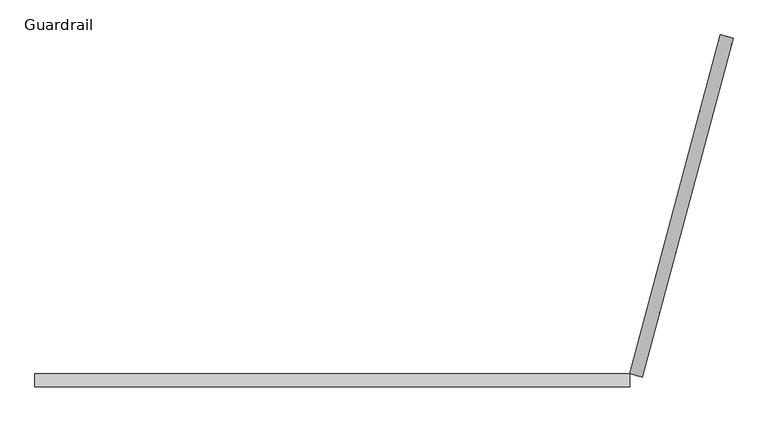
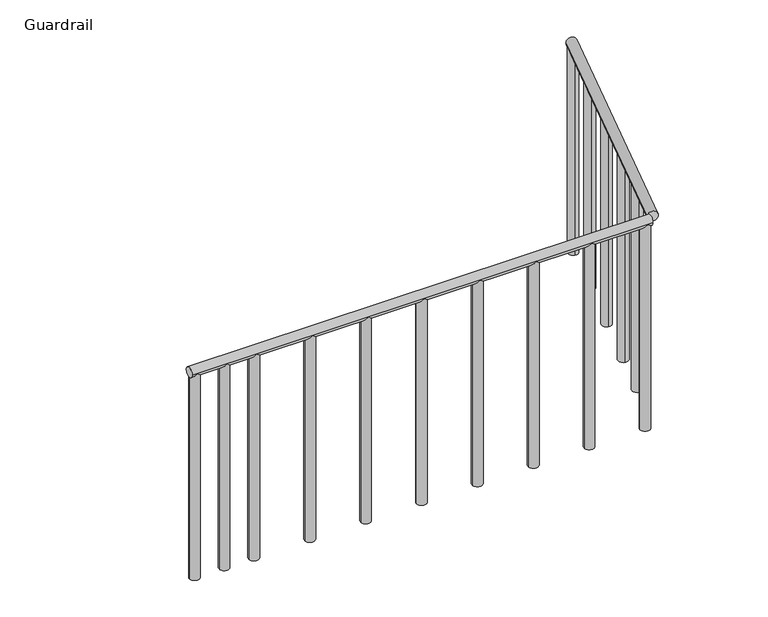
"""IFC4 building model written with IfcOpenShell, lengths in millimetres: railing geometry, Guardrail."""

from ifc_helpers import new_model, si_unit, frame, origin, place, context, project, spatial, circle_curve, ellipse_curve, source, transform, mapped, element, save
from ifc_brep_helpers import plane_surface, cylinder_surface, advanced_brep


def guardrail_bcd2a140(model_context):
    return source(origin(), model_context, "Body", "AdvancedBrep", [
        advanced_brep(
        [(2243.9412132, -4755.1653971, 4749.8), (2243.9412132, -4704.3653971, 4749.8), (-59.7876791, -4755.1653971, 4749.8), (-59.7876791, -4704.3653971, 4749.8)],
        [
            (0, 1, circle_curve(frame((2243.9412132, -4729.7653971, 4749.8), z_axis=(1.0, 0.0, 0.0), x_axis=(0.0, -1.0, 0.0)), 25.4)),
            (1, 0, circle_curve(frame((2243.9412132, -4729.7653971, 4749.8), z_axis=(1.0, 0.0, 0.0), x_axis=(0.0, -1.0, 0.0)), 25.4)),
            (2, 3, circle_curve(frame((-59.7876791, -4729.7653971, 4749.8), z_axis=(-1.0, 0.0, 0.0), x_axis=(0.0, -1.0, 0.0)), 25.4)),
            (3, 2, circle_curve(frame((-59.7876791, -4729.7653971, 4749.8), z_axis=(-1.0, 0.0, 0.0), x_axis=(0.0, -1.0, 0.0)), 25.4)),
            (0, 2),
            (3, 1),
        ],
        [
            plane_surface(frame((2243.9412132, -4755.1653971, 4724.4), z_axis=(1.0, 0.0, 0.0), x_axis=(0.0, 1.0, 0.0))),
            plane_surface(frame((-59.7876791, -4755.1653971, 4724.4), z_axis=(-1.0, 0.0, 0.0), x_axis=(0.0, -1.0, 0.0))),
            cylinder_surface(frame((-59.7876791, -4729.7653971, 4749.8), z_axis=(1.0, 0.0, 0.0), x_axis=(0.0, -1.0, 0.0)), 25.4),
        ],
        [
            (0, [[1, 2]]),
            (1, [[3, 4]]),
            (2, [[-1, 5, -4, 6]]),
            (2, [[-2, -6, -3, -5]]),
        ],
    ),
        advanced_brep(
        [(-8.9876791, -4729.7653971, 3657.6), (-59.7876791, -4729.7653971, 3657.6), (-59.7876791, -4729.7653971, 4727.8029547), (-56.3847243, -4717.0653971, 4727.8029547), (-12.3906338, -4717.0653971, 4727.8029547), (-8.9876791, -4729.7653971, 4727.8029547), (-12.3906338, -4742.4653971, 4727.8029547), (-56.3847243, -4742.4653971, 4727.8029547)],
        [
            (0, 1, circle_curve(frame((-34.3876791, -4729.7653971, 3657.6), z_axis=(0.0, 0.0, -1.0), x_axis=(1.0, 0.0, 0.0)), 25.4)),
            (1, 0, circle_curve(frame((-34.3876791, -4729.7653971, 3657.6), z_axis=(0.0, 0.0, -1.0), x_axis=(1.0, 0.0, 0.0)), 25.4)),
            (2, 3, circle_curve(frame((-34.3876791, -4729.7653971, 4727.8029547), z_axis=(0.0, 0.0, -1.0), x_axis=(1.0, 0.0, 0.0)), 25.4)),
            (3, 4, ellipse_curve(frame((-34.3876791, -4729.7653971, 4705.8059095), z_axis=(0.0, 0.8660254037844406, -0.4999999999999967), x_axis=(0.0, 0.4999999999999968, 0.8660254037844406)), 50.8, 25.4)),
            (4, 5, circle_curve(frame((-34.3876791, -4729.7653971, 4727.8029547), z_axis=(0.0, 0.0, -1.0), x_axis=(1.0, 0.0, 0.0)), 25.4)),
            (5, 0),
            (1, 2),
            (5, 6, circle_curve(frame((-34.3876791, -4729.7653971, 4727.8029547), z_axis=(0.0, 0.0, -1.0), x_axis=(1.0, 0.0, 0.0)), 25.4)),
            (6, 7, ellipse_curve(frame((-34.3876791, -4729.7653971, 4705.8059095), z_axis=(0.0, -0.8660254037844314, -0.5000000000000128), x_axis=(0.0, -0.5000000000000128, 0.8660254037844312)), 50.8, 25.4)),
            (7, 2, circle_curve(frame((-34.3876791, -4729.7653971, 4727.8029547), z_axis=(0.0, 0.0, -1.0), x_axis=(1.0, 0.0, 0.0)), 25.4)),
            (4, 3),
            (7, 6),
        ],
        [
            plane_surface(frame((-8.9876791, -4729.7653971, 3657.6), z_axis=(0.0, 0.0, -1.0), x_axis=(0.0, -1.0, 0.0))),
            cylinder_surface(frame((-34.3876791, -4729.7653971, 3657.6), z_axis=(0.0, 0.0, 1.0), x_axis=(1.0, 0.0, 0.0)), 25.4),
            plane_surface(frame((-3107.7876791, -4729.7653971, 4727.8029547), z_axis=(0.0, 0.0, 1.0), x_axis=(0.0, -1.0, 0.0))),
            plane_surface(frame((-3107.7876791, -4710.7153971, 4738.8014774), z_axis=(0.0, -0.8660254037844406, 0.4999999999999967), x_axis=(0.0, -0.4999999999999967, -0.8660254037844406))),
            plane_surface(frame((-3107.7876791, -4748.8153971, 4738.8014774), z_axis=(0.0, 0.8660254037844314, 0.5000000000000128), x_axis=(0.0, -0.5000000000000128, 0.8660254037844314))),
        ],
        [
            (0, [[1, 2]]),
            (1, [[3, 4, 5, 6, -2, 7]]),
            (1, [[8, 9, 10, -7, -1, -6]]),
            (2, [[-5, 11, -3, -10, 12, -8]]),
            (3, [[-4, -11]]),
            (4, [[-9, -12]]),
        ],
    ),
        advanced_brep(
        [(139.5767671, -4729.7653971, 3657.6), (88.7767671, -4729.7653971, 3657.6), (88.7767671, -4729.7653971, 4727.8029547), (92.1797218, -4717.0653971, 4727.8029547), (136.1738123, -4717.0653971, 4727.8029547), (139.5767671, -4729.7653971, 4727.8029547), (136.1738123, -4742.4653971, 4727.8029547), (92.1797218, -4742.4653971, 4727.8029547)],
        [
            (0, 1, circle_curve(frame((114.1767671, -4729.7653971, 3657.6), z_axis=(0.0, 0.0, -1.0), x_axis=(1.0, 0.0, 0.0)), 25.4)),
            (1, 0, circle_curve(frame((114.1767671, -4729.7653971, 3657.6), z_axis=(0.0, 0.0, -1.0), x_axis=(1.0, 0.0, 0.0)), 25.4)),
            (2, 3, circle_curve(frame((114.1767671, -4729.7653971, 4727.8029547), z_axis=(0.0, 0.0, -1.0), x_axis=(1.0, 0.0, 0.0)), 25.4)),
            (3, 4, ellipse_curve(frame((114.1767671, -4729.7653971, 4705.8059095), z_axis=(0.0, 0.8660254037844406, -0.4999999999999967), x_axis=(0.0, 0.4999999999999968, 0.8660254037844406)), 50.8, 25.4)),
            (4, 5, circle_curve(frame((114.1767671, -4729.7653971, 4727.8029547), z_axis=(0.0, 0.0, -1.0), x_axis=(1.0, 0.0, 0.0)), 25.4)),
            (5, 0),
            (1, 2),
            (5, 6, circle_curve(frame((114.1767671, -4729.7653971, 4727.8029547), z_axis=(0.0, 0.0, -1.0), x_axis=(1.0, 0.0, 0.0)), 25.4)),
            (6, 7, ellipse_curve(frame((114.1767671, -4729.7653971, 4705.8059095), z_axis=(0.0, -0.8660254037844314, -0.5000000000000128), x_axis=(0.0, -0.5000000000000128, 0.8660254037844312)), 50.8, 25.4)),
            (7, 2, circle_curve(frame((114.1767671, -4729.7653971, 4727.8029547), z_axis=(0.0, 0.0, -1.0), x_axis=(1.0, 0.0, 0.0)), 25.4)),
            (6, 7),
            (3, 4),
        ],
        [
            plane_surface(frame((139.5767671, -4729.7653971, 3657.6), z_axis=(0.0, 0.0, -1.0), x_axis=(0.0, -1.0, 0.0))),
            cylinder_surface(frame((114.1767671, -4729.7653971, 3657.6), z_axis=(0.0, 0.0, 1.0), x_axis=(1.0, 0.0, 0.0)), 25.4),
            plane_surface(frame((-3107.7876791, -4748.8153971, 4738.8014774), z_axis=(0.0, 0.8660254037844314, 0.5000000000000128), x_axis=(0.0, -0.5000000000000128, 0.8660254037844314))),
            plane_surface(frame((-3107.7876791, -4710.7153971, 4738.8014774), z_axis=(0.0, -0.8660254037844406, 0.4999999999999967), x_axis=(0.0, -0.4999999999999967, -0.8660254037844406))),
            plane_surface(frame((-3107.7876791, -4729.7653971, 4727.8029547), z_axis=(0.0, 0.0, 1.0), x_axis=(0.0, -1.0, 0.0))),
        ],
        [
            (0, [[1, 2]]),
            (1, [[3, 4, 5, 6, -2, 7]]),
            (1, [[8, 9, 10, -7, -1, -6]]),
            (2, [[-9, 11]]),
            (3, [[-4, 12]]),
            (4, [[-5, -12, -3, -10, -11, -8]]),
        ],
    ),
        advanced_brep(
        [(288.1412132, -4729.7653971, 3657.6), (237.3412132, -4729.7653971, 3657.6), (237.3412132, -4729.7653971, 4727.8029547), (240.744168, -4717.0653971, 4727.8029547), (284.7382585, -4717.0653971, 4727.8029547), (288.1412132, -4729.7653971, 4727.8029547), (284.7382585, -4742.4653971, 4727.8029547), (240.744168, -4742.4653971, 4727.8029547)],
        [
            (0, 1, circle_curve(frame((262.7412132, -4729.7653971, 3657.6), z_axis=(0.0, 0.0, -1.0), x_axis=(1.0, 0.0, 0.0)), 25.4)),
            (1, 0, circle_curve(frame((262.7412132, -4729.7653971, 3657.6), z_axis=(0.0, 0.0, -1.0), x_axis=(1.0, 0.0, 0.0)), 25.4)),
            (2, 3, circle_curve(frame((262.7412132, -4729.7653971, 4727.8029547), z_axis=(0.0, 0.0, -1.0), x_axis=(1.0, 0.0, 0.0)), 25.4)),
            (3, 4, ellipse_curve(frame((262.7412132, -4729.7653971, 4705.8059095), z_axis=(0.0, 0.8660254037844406, -0.4999999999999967), x_axis=(0.0, 0.4999999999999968, 0.8660254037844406)), 50.8, 25.4)),
            (4, 5, circle_curve(frame((262.7412132, -4729.7653971, 4727.8029547), z_axis=(0.0, 0.0, -1.0), x_axis=(1.0, 0.0, 0.0)), 25.4)),
            (5, 0),
            (1, 2),
            (5, 6, circle_curve(frame((262.7412132, -4729.7653971, 4727.8029547), z_axis=(0.0, 0.0, -1.0), x_axis=(1.0, 0.0, 0.0)), 25.4)),
            (6, 7, ellipse_curve(frame((262.7412132, -4729.7653971, 4705.8059095), z_axis=(0.0, -0.8660254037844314, -0.5000000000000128), x_axis=(0.0, -0.5000000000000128, 0.8660254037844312)), 50.8, 25.4)),
            (7, 2, circle_curve(frame((262.7412132, -4729.7653971, 4727.8029547), z_axis=(0.0, 0.0, -1.0), x_axis=(1.0, 0.0, 0.0)), 25.4)),
            (6, 7),
            (3, 4),
        ],
        [
            plane_surface(frame((288.1412132, -4729.7653971, 3657.6), z_axis=(0.0, 0.0, -1.0), x_axis=(0.0, -1.0, 0.0))),
            cylinder_surface(frame((262.7412132, -4729.7653971, 3657.6), z_axis=(0.0, 0.0, 1.0), x_axis=(1.0, 0.0, 0.0)), 25.4),
            plane_surface(frame((-3107.7876791, -4748.8153971, 4738.8014774), z_axis=(0.0, 0.8660254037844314, 0.5000000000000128), x_axis=(0.0, -0.5000000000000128, 0.8660254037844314))),
            plane_surface(frame((-3107.7876791, -4710.7153971, 4738.8014774), z_axis=(0.0, -0.8660254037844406, 0.4999999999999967), x_axis=(0.0, -0.4999999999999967, -0.8660254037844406))),
            plane_surface(frame((-3107.7876791, -4729.7653971, 4727.8029547), z_axis=(0.0, 0.0, 1.0), x_axis=(0.0, -1.0, 0.0))),
        ],
        [
            (0, [[1, 2]]),
            (1, [[3, 4, 5, 6, -2, 7]]),
            (1, [[8, 9, 10, -7, -1, -6]]),
            (2, [[-9, 11]]),
            (3, [[-4, 12]]),
            (4, [[-5, -12, -3, -10, -11, -8]]),
        ],
    ),
        advanced_brep(
        [(567.5412132, -4729.7653971, 3657.6), (516.7412132, -4729.7653971, 3657.6), (516.7412132, -4729.7653971, 4727.8029547), (520.144168, -4717.0653971, 4727.8029547), (564.1382585, -4717.0653971, 4727.8029547), (567.5412132, -4729.7653971, 4727.8029547), (564.1382585, -4742.4653971, 4727.8029547), (520.144168, -4742.4653971, 4727.8029547)],
        [
            (0, 1, circle_curve(frame((542.1412132, -4729.7653971, 3657.6), z_axis=(0.0, 0.0, -1.0), x_axis=(1.0, 0.0, 0.0)), 25.4)),
            (1, 0, circle_curve(frame((542.1412132, -4729.7653971, 3657.6), z_axis=(0.0, 0.0, -1.0), x_axis=(1.0, 0.0, 0.0)), 25.4)),
            (2, 3, circle_curve(frame((542.1412132, -4729.7653971, 4727.8029547), z_axis=(0.0, 0.0, -1.0), x_axis=(1.0, 0.0, 0.0)), 25.4)),
            (3, 4, ellipse_curve(frame((542.1412132, -4729.7653971, 4705.8059095), z_axis=(0.0, 0.8660254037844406, -0.4999999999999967), x_axis=(0.0, 0.4999999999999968, 0.8660254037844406)), 50.8, 25.4)),
            (4, 5, circle_curve(frame((542.1412132, -4729.7653971, 4727.8029547), z_axis=(0.0, 0.0, -1.0), x_axis=(1.0, 0.0, 0.0)), 25.4)),
            (5, 0),
            (1, 2),
            (5, 6, circle_curve(frame((542.1412132, -4729.7653971, 4727.8029547), z_axis=(0.0, 0.0, -1.0), x_axis=(1.0, 0.0, 0.0)), 25.4)),
            (6, 7, ellipse_curve(frame((542.1412132, -4729.7653971, 4705.8059095), z_axis=(0.0, -0.8660254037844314, -0.5000000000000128), x_axis=(0.0, -0.5000000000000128, 0.8660254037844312)), 50.8, 25.4)),
            (7, 2, circle_curve(frame((542.1412132, -4729.7653971, 4727.8029547), z_axis=(0.0, 0.0, -1.0), x_axis=(1.0, 0.0, 0.0)), 25.4)),
            (6, 7),
            (3, 4),
        ],
        [
            plane_surface(frame((567.5412132, -4729.7653971, 3657.6), z_axis=(0.0, 0.0, -1.0), x_axis=(0.0, -1.0, 0.0))),
            cylinder_surface(frame((542.1412132, -4729.7653971, 3657.6), z_axis=(0.0, 0.0, 1.0), x_axis=(1.0, 0.0, 0.0)), 25.4),
            plane_surface(frame((-3107.7876791, -4748.8153971, 4738.8014774), z_axis=(0.0, 0.8660254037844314, 0.5000000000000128), x_axis=(0.0, -0.5000000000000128, 0.8660254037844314))),
            plane_surface(frame((-3107.7876791, -4710.7153971, 4738.8014774), z_axis=(0.0, -0.8660254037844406, 0.4999999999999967), x_axis=(0.0, -0.4999999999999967, -0.8660254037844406))),
            plane_surface(frame((-3107.7876791, -4729.7653971, 4727.8029547), z_axis=(0.0, 0.0, 1.0), x_axis=(0.0, -1.0, 0.0))),
        ],
        [
            (0, [[1, 2]]),
            (1, [[3, 4, 5, 6, -2, 7]]),
            (1, [[8, 9, 10, -7, -1, -6]]),
            (2, [[-9, 11]]),
            (3, [[-4, 12]]),
            (4, [[-5, -12, -3, -10, -11, -8]]),
        ],
    ),
        advanced_brep(
        [(846.9412132, -4729.7653971, 3657.6), (796.1412132, -4729.7653971, 3657.6), (796.1412132, -4729.7653971, 4727.8029547), (799.544168, -4717.0653971, 4727.8029547), (843.5382585, -4717.0653971, 4727.8029547), (846.9412132, -4729.7653971, 4727.8029547), (843.5382585, -4742.4653971, 4727.8029547), (799.544168, -4742.4653971, 4727.8029547)],
        [
            (0, 1, circle_curve(frame((821.5412132, -4729.7653971, 3657.6), z_axis=(0.0, 0.0, -1.0), x_axis=(1.0, 0.0, 0.0)), 25.4)),
            (1, 0, circle_curve(frame((821.5412132, -4729.7653971, 3657.6), z_axis=(0.0, 0.0, -1.0), x_axis=(1.0, 0.0, 0.0)), 25.4)),
            (2, 3, circle_curve(frame((821.5412132, -4729.7653971, 4727.8029547), z_axis=(0.0, 0.0, -1.0), x_axis=(1.0, 0.0, 0.0)), 25.4)),
            (3, 4, ellipse_curve(frame((821.5412132, -4729.7653971, 4705.8059095), z_axis=(0.0, 0.8660254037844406, -0.4999999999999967), x_axis=(0.0, 0.4999999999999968, 0.8660254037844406)), 50.8, 25.4)),
            (4, 5, circle_curve(frame((821.5412132, -4729.7653971, 4727.8029547), z_axis=(0.0, 0.0, -1.0), x_axis=(1.0, 0.0, 0.0)), 25.4)),
            (5, 0),
            (1, 2),
            (5, 6, circle_curve(frame((821.5412132, -4729.7653971, 4727.8029547), z_axis=(0.0, 0.0, -1.0), x_axis=(1.0, 0.0, 0.0)), 25.4)),
            (6, 7, ellipse_curve(frame((821.5412132, -4729.7653971, 4705.8059095), z_axis=(0.0, -0.8660254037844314, -0.5000000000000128), x_axis=(0.0, -0.5000000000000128, 0.8660254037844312)), 50.8, 25.4)),
            (7, 2, circle_curve(frame((821.5412132, -4729.7653971, 4727.8029547), z_axis=(0.0, 0.0, -1.0), x_axis=(1.0, 0.0, 0.0)), 25.4)),
            (6, 7),
            (3, 4),
        ],
        [
            plane_surface(frame((846.9412132, -4729.7653971, 3657.6), z_axis=(0.0, 0.0, -1.0), x_axis=(0.0, -1.0, 0.0))),
            cylinder_surface(frame((821.5412132, -4729.7653971, 3657.6), z_axis=(0.0, 0.0, 1.0), x_axis=(1.0, 0.0, 0.0)), 25.4),
            plane_surface(frame((-3107.7876791, -4748.8153971, 4738.8014774), z_axis=(0.0, 0.8660254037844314, 0.5000000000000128), x_axis=(0.0, -0.5000000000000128, 0.8660254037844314))),
            plane_surface(frame((-3107.7876791, -4710.7153971, 4738.8014774), z_axis=(0.0, -0.8660254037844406, 0.4999999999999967), x_axis=(0.0, -0.4999999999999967, -0.8660254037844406))),
            plane_surface(frame((-3107.7876791, -4729.7653971, 4727.8029547), z_axis=(0.0, 0.0, 1.0), x_axis=(0.0, -1.0, 0.0))),
        ],
        [
            (0, [[1, 2]]),
            (1, [[3, 4, 5, 6, -2, 7]]),
            (1, [[8, 9, 10, -7, -1, -6]]),
            (2, [[-9, 11]]),
            (3, [[-4, 12]]),
            (4, [[-5, -12, -3, -10, -11, -8]]),
        ],
    ),
        advanced_brep(
        [(1126.3412132, -4729.7653971, 3657.6), (1075.5412132, -4729.7653971, 3657.6), (1075.5412132, -4729.7653971, 4727.8029547), (1078.944168, -4717.0653971, 4727.8029547), (1122.9382585, -4717.0653971, 4727.8029547), (1126.3412132, -4729.7653971, 4727.8029547), (1122.9382585, -4742.4653971, 4727.8029547), (1078.944168, -4742.4653971, 4727.8029547)],
        [
            (0, 1, circle_curve(frame((1100.9412132, -4729.7653971, 3657.6), z_axis=(0.0, 0.0, -1.0), x_axis=(1.0, 0.0, 0.0)), 25.4)),
            (1, 0, circle_curve(frame((1100.9412132, -4729.7653971, 3657.6), z_axis=(0.0, 0.0, -1.0), x_axis=(1.0, 0.0, 0.0)), 25.4)),
            (2, 3, circle_curve(frame((1100.9412132, -4729.7653971, 4727.8029547), z_axis=(0.0, 0.0, -1.0), x_axis=(1.0, 0.0, 0.0)), 25.4)),
            (3, 4, ellipse_curve(frame((1100.9412132, -4729.7653971, 4705.8059095), z_axis=(0.0, 0.8660254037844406, -0.4999999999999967), x_axis=(0.0, 0.4999999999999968, 0.8660254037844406)), 50.8, 25.4)),
            (4, 5, circle_curve(frame((1100.9412132, -4729.7653971, 4727.8029547), z_axis=(0.0, 0.0, -1.0), x_axis=(1.0, 0.0, 0.0)), 25.4)),
            (5, 0),
            (1, 2),
            (5, 6, circle_curve(frame((1100.9412132, -4729.7653971, 4727.8029547), z_axis=(0.0, 0.0, -1.0), x_axis=(1.0, 0.0, 0.0)), 25.4)),
            (6, 7, ellipse_curve(frame((1100.9412132, -4729.7653971, 4705.8059095), z_axis=(0.0, -0.8660254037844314, -0.5000000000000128), x_axis=(0.0, -0.5000000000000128, 0.8660254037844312)), 50.8, 25.4)),
            (7, 2, circle_curve(frame((1100.9412132, -4729.7653971, 4727.8029547), z_axis=(0.0, 0.0, -1.0), x_axis=(1.0, 0.0, 0.0)), 25.4)),
            (6, 7),
            (3, 4),
        ],
        [
            plane_surface(frame((1126.3412132, -4729.7653971, 3657.6), z_axis=(0.0, 0.0, -1.0), x_axis=(0.0, -1.0, 0.0))),
            cylinder_surface(frame((1100.9412132, -4729.7653971, 3657.6), z_axis=(0.0, 0.0, 1.0), x_axis=(1.0, 0.0, 0.0)), 25.4),
            plane_surface(frame((-3107.7876791, -4748.8153971, 4738.8014774), z_axis=(0.0, 0.8660254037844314, 0.5000000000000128), x_axis=(0.0, -0.5000000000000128, 0.8660254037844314))),
            plane_surface(frame((-3107.7876791, -4710.7153971, 4738.8014774), z_axis=(0.0, -0.8660254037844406, 0.4999999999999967), x_axis=(0.0, -0.4999999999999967, -0.8660254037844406))),
            plane_surface(frame((-3107.7876791, -4729.7653971, 4727.8029547), z_axis=(0.0, 0.0, 1.0), x_axis=(0.0, -1.0, 0.0))),
        ],
        [
            (0, [[1, 2]]),
            (1, [[3, 4, 5, 6, -2, 7]]),
            (1, [[8, 9, 10, -7, -1, -6]]),
            (2, [[-9, 11]]),
            (3, [[-4, 12]]),
            (4, [[-5, -12, -3, -10, -11, -8]]),
        ],
    ),
        advanced_brep(
        [(1405.7412132, -4729.7653971, 3657.6), (1354.9412132, -4729.7653971, 3657.6), (1354.9412132, -4729.7653971, 4727.8029547), (1358.344168, -4717.0653971, 4727.8029547), (1402.3382585, -4717.0653971, 4727.8029547), (1405.7412132, -4729.7653971, 4727.8029547), (1402.3382585, -4742.4653971, 4727.8029547), (1358.344168, -4742.4653971, 4727.8029547)],
        [
            (0, 1, circle_curve(frame((1380.3412132, -4729.7653971, 3657.6), z_axis=(0.0, 0.0, -1.0), x_axis=(1.0, 0.0, 0.0)), 25.4)),
            (1, 0, circle_curve(frame((1380.3412132, -4729.7653971, 3657.6), z_axis=(0.0, 0.0, -1.0), x_axis=(1.0, 0.0, 0.0)), 25.4)),
            (2, 3, circle_curve(frame((1380.3412132, -4729.7653971, 4727.8029547), z_axis=(0.0, 0.0, -1.0), x_axis=(1.0, 0.0, 0.0)), 25.4)),
            (3, 4, ellipse_curve(frame((1380.3412132, -4729.7653971, 4705.8059095), z_axis=(0.0, 0.8660254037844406, -0.4999999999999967), x_axis=(0.0, 0.4999999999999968, 0.8660254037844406)), 50.8, 25.4)),
            (4, 5, circle_curve(frame((1380.3412132, -4729.7653971, 4727.8029547), z_axis=(0.0, 0.0, -1.0), x_axis=(1.0, 0.0, 0.0)), 25.4)),
            (5, 0),
            (1, 2),
            (5, 6, circle_curve(frame((1380.3412132, -4729.7653971, 4727.8029547), z_axis=(0.0, 0.0, -1.0), x_axis=(1.0, 0.0, 0.0)), 25.4)),
            (6, 7, ellipse_curve(frame((1380.3412132, -4729.7653971, 4705.8059095), z_axis=(0.0, -0.8660254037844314, -0.5000000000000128), x_axis=(0.0, -0.5000000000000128, 0.8660254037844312)), 50.8, 25.4)),
            (7, 2, circle_curve(frame((1380.3412132, -4729.7653971, 4727.8029547), z_axis=(0.0, 0.0, -1.0), x_axis=(1.0, 0.0, 0.0)), 25.4)),
            (6, 7),
            (3, 4),
        ],
        [
            plane_surface(frame((1405.7412132, -4729.7653971, 3657.6), z_axis=(0.0, 0.0, -1.0), x_axis=(0.0, -1.0, 0.0))),
            cylinder_surface(frame((1380.3412132, -4729.7653971, 3657.6), z_axis=(0.0, 0.0, 1.0), x_axis=(1.0, 0.0, 0.0)), 25.4),
            plane_surface(frame((-3107.7876791, -4748.8153971, 4738.8014774), z_axis=(0.0, 0.8660254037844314, 0.5000000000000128), x_axis=(0.0, -0.5000000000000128, 0.8660254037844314))),
            plane_surface(frame((-3107.7876791, -4710.7153971, 4738.8014774), z_axis=(0.0, -0.8660254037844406, 0.4999999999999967), x_axis=(0.0, -0.4999999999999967, -0.8660254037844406))),
            plane_surface(frame((-3107.7876791, -4729.7653971, 4727.8029547), z_axis=(0.0, 0.0, 1.0), x_axis=(0.0, -1.0, 0.0))),
        ],
        [
            (0, [[1, 2]]),
            (1, [[3, 4, 5, 6, -2, 7]]),
            (1, [[8, 9, 10, -7, -1, -6]]),
            (2, [[-9, 11]]),
            (3, [[-4, 12]]),
            (4, [[-5, -12, -3, -10, -11, -8]]),
        ],
    ),
        advanced_brep(
        [(1685.1412132, -4729.7653971, 3657.6), (1634.3412132, -4729.7653971, 3657.6), (1634.3412132, -4729.7653971, 4727.8029547), (1637.744168, -4717.0653971, 4727.8029547), (1681.7382585, -4717.0653971, 4727.8029547), (1685.1412132, -4729.7653971, 4727.8029547), (1681.7382585, -4742.4653971, 4727.8029547), (1637.744168, -4742.4653971, 4727.8029547)],
        [
            (0, 1, circle_curve(frame((1659.7412132, -4729.7653971, 3657.6), z_axis=(0.0, 0.0, -1.0), x_axis=(1.0, 0.0, 0.0)), 25.4)),
            (1, 0, circle_curve(frame((1659.7412132, -4729.7653971, 3657.6), z_axis=(0.0, 0.0, -1.0), x_axis=(1.0, 0.0, 0.0)), 25.4)),
            (2, 3, circle_curve(frame((1659.7412132, -4729.7653971, 4727.8029547), z_axis=(0.0, 0.0, -1.0), x_axis=(1.0, 0.0, 0.0)), 25.4)),
            (3, 4, ellipse_curve(frame((1659.7412132, -4729.7653971, 4705.8059095), z_axis=(0.0, 0.8660254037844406, -0.4999999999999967), x_axis=(0.0, 0.4999999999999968, 0.8660254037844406)), 50.8, 25.4)),
            (4, 5, circle_curve(frame((1659.7412132, -4729.7653971, 4727.8029547), z_axis=(0.0, 0.0, -1.0), x_axis=(1.0, 0.0, 0.0)), 25.4)),
            (5, 0),
            (1, 2),
            (5, 6, circle_curve(frame((1659.7412132, -4729.7653971, 4727.8029547), z_axis=(0.0, 0.0, -1.0), x_axis=(1.0, 0.0, 0.0)), 25.4)),
            (6, 7, ellipse_curve(frame((1659.7412132, -4729.7653971, 4705.8059095), z_axis=(0.0, -0.8660254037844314, -0.5000000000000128), x_axis=(0.0, -0.5000000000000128, 0.8660254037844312)), 50.8, 25.4)),
            (7, 2, circle_curve(frame((1659.7412132, -4729.7653971, 4727.8029547), z_axis=(0.0, 0.0, -1.0), x_axis=(1.0, 0.0, 0.0)), 25.4)),
            (6, 7),
            (3, 4),
        ],
        [
            plane_surface(frame((1685.1412132, -4729.7653971, 3657.6), z_axis=(0.0, 0.0, -1.0), x_axis=(0.0, -1.0, 0.0))),
            cylinder_surface(frame((1659.7412132, -4729.7653971, 3657.6), z_axis=(0.0, 0.0, 1.0), x_axis=(1.0, 0.0, 0.0)), 25.4),
            plane_surface(frame((-3107.7876791, -4748.8153971, 4738.8014774), z_axis=(0.0, 0.8660254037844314, 0.5000000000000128), x_axis=(0.0, -0.5000000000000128, 0.8660254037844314))),
            plane_surface(frame((-3107.7876791, -4710.7153971, 4738.8014774), z_axis=(0.0, -0.8660254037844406, 0.4999999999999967), x_axis=(0.0, -0.4999999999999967, -0.8660254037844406))),
            plane_surface(frame((-3107.7876791, -4729.7653971, 4727.8029547), z_axis=(0.0, 0.0, 1.0), x_axis=(0.0, -1.0, 0.0))),
        ],
        [
            (0, [[1, 2]]),
            (1, [[3, 4, 5, 6, -2, 7]]),
            (1, [[8, 9, 10, -7, -1, -6]]),
            (2, [[-9, 11]]),
            (3, [[-4, 12]]),
            (4, [[-5, -12, -3, -10, -11, -8]]),
        ],
    ),
        advanced_brep(
        [(1964.5412132, -4729.7653971, 3657.6), (1913.7412132, -4729.7653971, 3657.6), (1913.7412132, -4729.7653971, 4727.8029547), (1917.144168, -4717.0653971, 4727.8029547), (1961.1382585, -4717.0653971, 4727.8029547), (1964.5412132, -4729.7653971, 4727.8029547), (1961.1382585, -4742.4653971, 4727.8029547), (1917.144168, -4742.4653971, 4727.8029547)],
        [
            (0, 1, circle_curve(frame((1939.1412132, -4729.7653971, 3657.6), z_axis=(0.0, 0.0, -1.0), x_axis=(1.0, 0.0, 0.0)), 25.4)),
            (1, 0, circle_curve(frame((1939.1412132, -4729.7653971, 3657.6), z_axis=(0.0, 0.0, -1.0), x_axis=(1.0, 0.0, 0.0)), 25.4)),
            (2, 3, circle_curve(frame((1939.1412132, -4729.7653971, 4727.8029547), z_axis=(0.0, 0.0, -1.0), x_axis=(1.0, 0.0, 0.0)), 25.4)),
            (3, 4, ellipse_curve(frame((1939.1412132, -4729.7653971, 4705.8059095), z_axis=(0.0, 0.8660254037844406, -0.4999999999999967), x_axis=(0.0, 0.4999999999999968, 0.8660254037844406)), 50.8, 25.4)),
            (4, 5, circle_curve(frame((1939.1412132, -4729.7653971, 4727.8029547), z_axis=(0.0, 0.0, -1.0), x_axis=(1.0, 0.0, 0.0)), 25.4)),
            (5, 0),
            (1, 2),
            (5, 6, circle_curve(frame((1939.1412132, -4729.7653971, 4727.8029547), z_axis=(0.0, 0.0, -1.0), x_axis=(1.0, 0.0, 0.0)), 25.4)),
            (6, 7, ellipse_curve(frame((1939.1412132, -4729.7653971, 4705.8059095), z_axis=(0.0, -0.8660254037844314, -0.5000000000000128), x_axis=(0.0, -0.5000000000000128, 0.8660254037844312)), 50.8, 25.4)),
            (7, 2, circle_curve(frame((1939.1412132, -4729.7653971, 4727.8029547), z_axis=(0.0, 0.0, -1.0), x_axis=(1.0, 0.0, 0.0)), 25.4)),
            (6, 7),
            (3, 4),
        ],
        [
            plane_surface(frame((1964.5412132, -4729.7653971, 3657.6), z_axis=(0.0, 0.0, -1.0), x_axis=(0.0, -1.0, 0.0))),
            cylinder_surface(frame((1939.1412132, -4729.7653971, 3657.6), z_axis=(0.0, 0.0, 1.0), x_axis=(1.0, 0.0, 0.0)), 25.4),
            plane_surface(frame((-3107.7876791, -4748.8153971, 4738.8014774), z_axis=(0.0, 0.8660254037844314, 0.5000000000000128), x_axis=(0.0, -0.5000000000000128, 0.8660254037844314))),
            plane_surface(frame((-3107.7876791, -4710.7153971, 4738.8014774), z_axis=(0.0, -0.8660254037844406, 0.4999999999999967), x_axis=(0.0, -0.4999999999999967, -0.8660254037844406))),
            plane_surface(frame((-3107.7876791, -4729.7653971, 4727.8029547), z_axis=(0.0, 0.0, 1.0), x_axis=(0.0, -1.0, 0.0))),
        ],
        [
            (0, [[1, 2]]),
            (1, [[3, 4, 5, 6, -2, 7]]),
            (1, [[8, 9, 10, -7, -1, -6]]),
            (2, [[-9, 11]]),
            (3, [[-4, 12]]),
            (4, [[-5, -12, -3, -10, -11, -8]]),
        ],
    ),
        advanced_brep(
        [(2243.9412132, -4729.7653971, 3657.6), (2193.1412132, -4729.7653971, 3657.6), (2193.1412132, -4729.7653971, 4727.8029547), (2196.544168, -4717.0653971, 4727.8029547), (2240.5382585, -4717.0653971, 4727.8029547), (2243.9412132, -4729.7653971, 4727.8029547), (2240.5382585, -4742.4653971, 4727.8029547), (2196.544168, -4742.4653971, 4727.8029547)],
        [
            (0, 1, circle_curve(frame((2218.5412132, -4729.7653971, 3657.6), z_axis=(0.0, 0.0, -1.0), x_axis=(1.0, 0.0, 0.0)), 25.4)),
            (1, 0, circle_curve(frame((2218.5412132, -4729.7653971, 3657.6), z_axis=(0.0, 0.0, -1.0), x_axis=(1.0, 0.0, 0.0)), 25.4)),
            (2, 3, circle_curve(frame((2218.5412132, -4729.7653971, 4727.8029547), z_axis=(0.0, 0.0, -1.0), x_axis=(1.0, 0.0, 0.0)), 25.4)),
            (3, 4, ellipse_curve(frame((2218.5412132, -4729.7653971, 4705.8059095), z_axis=(0.0, 0.8660254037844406, -0.4999999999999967), x_axis=(0.0, 0.4999999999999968, 0.8660254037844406)), 50.8, 25.4)),
            (4, 5, circle_curve(frame((2218.5412132, -4729.7653971, 4727.8029547), z_axis=(0.0, 0.0, -1.0), x_axis=(1.0, 0.0, 0.0)), 25.4)),
            (5, 0),
            (1, 2),
            (5, 6, circle_curve(frame((2218.5412132, -4729.7653971, 4727.8029547), z_axis=(0.0, 0.0, -1.0), x_axis=(1.0, 0.0, 0.0)), 25.4)),
            (6, 7, ellipse_curve(frame((2218.5412132, -4729.7653971, 4705.8059095), z_axis=(0.0, -0.8660254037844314, -0.5000000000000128), x_axis=(0.0, -0.5000000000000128, 0.8660254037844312)), 50.8, 25.4)),
            (7, 2, circle_curve(frame((2218.5412132, -4729.7653971, 4727.8029547), z_axis=(0.0, 0.0, -1.0), x_axis=(1.0, 0.0, 0.0)), 25.4)),
            (6, 7),
            (3, 4),
        ],
        [
            plane_surface(frame((2243.9412132, -4729.7653971, 3657.6), z_axis=(0.0, 0.0, -1.0), x_axis=(0.0, -1.0, 0.0))),
            cylinder_surface(frame((2218.5412132, -4729.7653971, 3657.6), z_axis=(0.0, 0.0, 1.0), x_axis=(1.0, 0.0, 0.0)), 25.4),
            plane_surface(frame((-3107.7876791, -4748.8153971, 4738.8014774), z_axis=(0.0, 0.8660254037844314, 0.5000000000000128), x_axis=(0.0, -0.5000000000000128, 0.8660254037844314))),
            plane_surface(frame((-3107.7876791, -4710.7153971, 4738.8014774), z_axis=(0.0, -0.8660254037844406, 0.4999999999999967), x_axis=(0.0, -0.4999999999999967, -0.8660254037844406))),
            plane_surface(frame((-3107.7876791, -4729.7653971, 4727.8029547), z_axis=(0.0, 0.0, 1.0), x_axis=(0.0, -1.0, 0.0))),
        ],
        [
            (0, [[1, 2]]),
            (1, [[3, 4, 5, 6, -2, 7]]),
            (1, [[8, 9, 10, -7, -1, -6]]),
            (2, [[-9, 11]]),
            (3, [[-4, 12]]),
            (4, [[-5, -12, -3, -10, -11, -8]]),
        ],
    ),
        advanced_brep(
        [(2644.5599307, -3405.512117, 4749.8), (2595.4908987, -3392.3641095, 4749.8), (2293.0102452, -4717.5134046, 4749.8), (2243.9412132, -4704.3653971, 4749.8)],
        [
            (0, 1, circle_curve(frame((2620.0254147, -3398.9381132, 4749.8), z_axis=(0.2588190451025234, 0.9659258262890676, 0.0), x_axis=(0.9659258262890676, -0.2588190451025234, 0.0)), 25.4)),
            (1, 0, circle_curve(frame((2620.0254147, -3398.9381132, 4749.8), z_axis=(0.2588190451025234, 0.9659258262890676, 0.0), x_axis=(0.9659258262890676, -0.2588190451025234, 0.0)), 25.4)),
            (2, 3, circle_curve(frame((2268.4757292, -4710.9394008, 4749.8), z_axis=(-0.2588190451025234, -0.9659258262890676, 0.0), x_axis=(0.9659258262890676, -0.2588190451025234, 0.0)), 25.4)),
            (3, 2, circle_curve(frame((2268.4757292, -4710.9394008, 4749.8), z_axis=(-0.2588190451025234, -0.9659258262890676, 0.0), x_axis=(0.9659258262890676, -0.2588190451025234, 0.0)), 25.4)),
            (0, 2),
            (3, 1),
        ],
        [
            plane_surface(frame((2644.5599307, -3405.512117, 4724.4), z_axis=(0.25881904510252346, 0.9659258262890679, 0.0), x_axis=(0.9659258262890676, -0.2588190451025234, 0.0))),
            plane_surface(frame((2293.0102452, -4717.5134046, 4724.4), z_axis=(-0.25881904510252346, -0.9659258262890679, 0.0), x_axis=(0.9659258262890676, -0.2588190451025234, 0.0))),
            cylinder_surface(frame((2268.4757292, -4710.9394008, 4749.8), z_axis=(0.2588190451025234, 0.9659258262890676, 0.0), x_axis=(0.9659258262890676, -0.2588190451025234, 0.0)), 25.4),
        ],
        [
            (0, [[1, 2]]),
            (1, [[3, 4]]),
            (2, [[-1, 5, -4, 6]]),
            (2, [[-2, -6, -3, -5]]),
        ],
    ),
        advanced_brep(
        [(2342.3535139, -4435.2237548, 3657.6), (2329.2055064, -4484.2927868, 3657.6), (2329.2055064, -4484.2927868, 4727.8029547), (2317.8189979, -4477.7187831, 4727.8029547), (2329.2055064, -4435.2237548, 4727.8029547), (2342.3535139, -4435.2237548, 4727.8029547), (2353.7400224, -4441.7977586, 4727.8029547), (2342.3535139, -4484.2927868, 4727.8029547)],
        [
            (0, 1, circle_curve(frame((2335.7795102, -4459.7582708, 3657.6), z_axis=(0.0, 0.0, -1.0), x_axis=(0.2588190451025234, 0.9659258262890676, 0.0)), 25.4)),
            (1, 0, circle_curve(frame((2335.7795102, -4459.7582708, 3657.6), z_axis=(0.0, 0.0, -1.0), x_axis=(0.2588190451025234, 0.9659258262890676, 0.0)), 25.4)),
            (2, 3, circle_curve(frame((2335.7795102, -4459.7582708, 4727.8029547), z_axis=(0.0, 0.0, -1.0), x_axis=(0.2588190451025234, 0.9659258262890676, 0.0)), 25.4)),
            (3, 4, ellipse_curve(frame((2335.7795102, -4459.7582708, 4705.8059095), z_axis=(-0.8365163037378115, 0.2241438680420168, -0.49999999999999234), x_axis=(-0.48296291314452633, 0.1294095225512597, 0.8660254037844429)), 50.8, 25.4)),
            (4, 5, circle_curve(frame((2335.7795102, -4459.7582708, 4727.8029547), z_axis=(0.0, 0.0, -1.0), x_axis=(0.2588190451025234, 0.9659258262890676, 0.0)), 25.4)),
            (5, 0),
            (1, 2),
            (5, 6, circle_curve(frame((2335.7795102, -4459.7582708, 4727.8029547), z_axis=(0.0, 0.0, -1.0), x_axis=(0.2588190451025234, 0.9659258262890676, 0.0)), 25.4)),
            (6, 7, ellipse_curve(frame((2335.7795102, -4459.7582708, 4705.8059095), z_axis=(0.8365163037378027, -0.2241438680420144, -0.5000000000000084), x_axis=(0.482962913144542, -0.12940952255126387, 0.8660254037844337)), 50.8, 25.4)),
            (7, 2, circle_curve(frame((2335.7795102, -4459.7582708, 4727.8029547), z_axis=(0.0, 0.0, -1.0), x_axis=(0.2588190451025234, 0.9659258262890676, 0.0)), 25.4)),
            (4, 3),
            (7, 6),
        ],
        [
            plane_surface(frame((2342.3535139, -4435.2237548, 3657.6), z_axis=(0.0, 0.0, -1.0000000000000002), x_axis=(0.9659258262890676, -0.25881904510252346, 0.0))),
            cylinder_surface(frame((2335.7795102, -4459.7582708, 3657.6), z_axis=(0.0, 0.0, 1.0000000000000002), x_axis=(0.2588190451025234, 0.9659258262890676, 0.0)), 25.4),
            plane_surface(frame((1479.5952798, -7655.0813194, 4727.8029547), z_axis=(0.0, 0.0, 1.0000000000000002), x_axis=(0.9659258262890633, -0.2588190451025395, 0.0))),
            plane_surface(frame((1461.1943928, -7650.1508166, 4738.8014774), z_axis=(0.8365163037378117, -0.22414386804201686, 0.49999999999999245), x_axis=(0.4829629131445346, -0.12940952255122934, -0.8660254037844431))),
            plane_surface(frame((1497.9961667, -7660.0118222, 4738.8014774), z_axis=(-0.8365163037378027, 0.2241438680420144, 0.5000000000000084), x_axis=(0.48296291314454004, -0.12940952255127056, 0.8660254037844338))),
        ],
        [
            (0, [[1, 2]]),
            (1, [[3, 4, 5, 6, -2, 7]]),
            (1, [[8, 9, 10, -7, -1, -6]]),
            (2, [[-5, 11, -3, -10, 12, -8]]),
            (3, [[-4, -11]]),
            (4, [[-9, -12]]),
        ],
    ),
        advanced_brep(
        [(2403.0832911, -4208.5771408, 3657.6), (2389.9352836, -4257.6461728, 3657.6), (2389.9352836, -4257.6461728, 4727.8029547), (2378.5487751, -4251.072169, 4727.8029547), (2389.9352836, -4208.5771408, 4727.8029547), (2403.0832911, -4208.5771408, 4727.8029547), (2414.4697996, -4215.1511445, 4727.8029547), (2403.0832911, -4257.6461728, 4727.8029547)],
        [
            (0, 1, circle_curve(frame((2396.5092874, -4233.1116568, 3657.6), z_axis=(0.0, 0.0, -1.0), x_axis=(0.2588190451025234, 0.9659258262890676, 0.0)), 25.4)),
            (1, 0, circle_curve(frame((2396.5092874, -4233.1116568, 3657.6), z_axis=(0.0, 0.0, -1.0), x_axis=(0.2588190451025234, 0.9659258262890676, 0.0)), 25.4)),
            (2, 3, circle_curve(frame((2396.5092874, -4233.1116568, 4727.8029547), z_axis=(0.0, 0.0, -1.0), x_axis=(0.2588190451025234, 0.9659258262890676, 0.0)), 25.4)),
            (3, 4, ellipse_curve(frame((2396.5092874, -4233.1116568, 4705.8059095), z_axis=(-0.8365163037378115, 0.2241438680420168, -0.49999999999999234), x_axis=(-0.48296291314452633, 0.1294095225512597, 0.8660254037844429)), 50.8, 25.4)),
            (4, 5, circle_curve(frame((2396.5092874, -4233.1116568, 4727.8029547), z_axis=(0.0, 0.0, -1.0), x_axis=(0.2588190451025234, 0.9659258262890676, 0.0)), 25.4)),
            (5, 0),
            (1, 2),
            (5, 6, circle_curve(frame((2396.5092874, -4233.1116568, 4727.8029547), z_axis=(0.0, 0.0, -1.0), x_axis=(0.2588190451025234, 0.9659258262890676, 0.0)), 25.4)),
            (6, 7, ellipse_curve(frame((2396.5092874, -4233.1116568, 4705.8059095), z_axis=(0.8365163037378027, -0.2241438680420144, -0.5000000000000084), x_axis=(0.482962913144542, -0.12940952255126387, 0.8660254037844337)), 50.8, 25.4)),
            (7, 2, circle_curve(frame((2396.5092874, -4233.1116568, 4727.8029547), z_axis=(0.0, 0.0, -1.0), x_axis=(0.2588190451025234, 0.9659258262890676, 0.0)), 25.4)),
            (4, 3),
            (7, 6),
        ],
        [
            plane_surface(frame((2403.0832911, -4208.5771408, 3657.6), z_axis=(0.0, 0.0, -1.0000000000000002), x_axis=(0.9659258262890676, -0.25881904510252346, 0.0))),
            cylinder_surface(frame((2396.5092874, -4233.1116568, 3657.6), z_axis=(0.0, 0.0, 1.0000000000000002), x_axis=(0.2588190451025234, 0.9659258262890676, 0.0)), 25.4),
            plane_surface(frame((1479.5952798, -7655.0813194, 4727.8029547), z_axis=(0.0, 0.0, 1.0000000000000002), x_axis=(0.9659258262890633, -0.2588190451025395, 0.0))),
            plane_surface(frame((1461.1943928, -7650.1508166, 4738.8014774), z_axis=(0.8365163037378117, -0.22414386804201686, 0.49999999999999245), x_axis=(0.4829629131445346, -0.12940952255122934, -0.8660254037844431))),
            plane_surface(frame((1497.9961667, -7660.0118222, 4738.8014774), z_axis=(-0.8365163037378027, 0.2241438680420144, 0.5000000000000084), x_axis=(0.48296291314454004, -0.12940952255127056, 0.8660254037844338))),
        ],
        [
            (0, [[1, 2]]),
            (1, [[3, 4, 5, 6, -2, 7]]),
            (1, [[8, 9, 10, -7, -1, -6]]),
            (2, [[-5, 11, -3, -10, 12, -8]]),
            (3, [[-4, -11]]),
            (4, [[-9, -12]]),
        ],
    ),
        advanced_brep(
        [(2475.3973323, -3938.6974649, 3657.6), (2462.2493248, -3987.7664969, 3657.6), (2462.2493248, -3987.7664969, 4727.8029547), (2450.8628163, -3981.1924932, 4727.8029547), (2462.2493248, -3938.6974649, 4727.8029547), (2475.3973323, -3938.6974649, 4727.8029547), (2486.7838408, -3945.2714687, 4727.8029547), (2475.3973323, -3987.7664969, 4727.8029547)],
        [
            (0, 1, circle_curve(frame((2468.8233286, -3963.2319809, 3657.6), z_axis=(0.0, 0.0, -1.0), x_axis=(0.2588190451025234, 0.9659258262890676, 0.0)), 25.4)),
            (1, 0, circle_curve(frame((2468.8233286, -3963.2319809, 3657.6), z_axis=(0.0, 0.0, -1.0), x_axis=(0.2588190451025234, 0.9659258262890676, 0.0)), 25.4)),
            (2, 3, circle_curve(frame((2468.8233286, -3963.2319809, 4727.8029547), z_axis=(0.0, 0.0, -1.0), x_axis=(0.2588190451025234, 0.9659258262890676, 0.0)), 25.4)),
            (3, 4, ellipse_curve(frame((2468.8233286, -3963.2319809, 4705.8059095), z_axis=(-0.8365163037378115, 0.2241438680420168, -0.49999999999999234), x_axis=(-0.48296291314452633, 0.1294095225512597, 0.8660254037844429)), 50.8, 25.4)),
            (4, 5, circle_curve(frame((2468.8233286, -3963.2319809, 4727.8029547), z_axis=(0.0, 0.0, -1.0), x_axis=(0.2588190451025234, 0.9659258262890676, 0.0)), 25.4)),
            (5, 0),
            (1, 2),
            (5, 6, circle_curve(frame((2468.8233286, -3963.2319809, 4727.8029547), z_axis=(0.0, 0.0, -1.0), x_axis=(0.2588190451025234, 0.9659258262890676, 0.0)), 25.4)),
            (6, 7, ellipse_curve(frame((2468.8233286, -3963.2319809, 4705.8059095), z_axis=(0.8365163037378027, -0.2241438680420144, -0.5000000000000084), x_axis=(0.482962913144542, -0.12940952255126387, 0.8660254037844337)), 50.8, 25.4)),
            (7, 2, circle_curve(frame((2468.8233286, -3963.2319809, 4727.8029547), z_axis=(0.0, 0.0, -1.0), x_axis=(0.2588190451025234, 0.9659258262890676, 0.0)), 25.4)),
            (4, 3),
            (7, 6),
        ],
        [
            plane_surface(frame((2475.3973323, -3938.6974649, 3657.6), z_axis=(0.0, 0.0, -1.0000000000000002), x_axis=(0.9659258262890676, -0.25881904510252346, 0.0))),
            cylinder_surface(frame((2468.8233286, -3963.2319809, 3657.6), z_axis=(0.0, 0.0, 1.0000000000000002), x_axis=(0.2588190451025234, 0.9659258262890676, 0.0)), 25.4),
            plane_surface(frame((1479.5952798, -7655.0813194, 4727.8029547), z_axis=(0.0, 0.0, 1.0000000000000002), x_axis=(0.9659258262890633, -0.2588190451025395, 0.0))),
            plane_surface(frame((1461.1943928, -7650.1508166, 4738.8014774), z_axis=(0.8365163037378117, -0.22414386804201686, 0.49999999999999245), x_axis=(0.4829629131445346, -0.12940952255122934, -0.8660254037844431))),
            plane_surface(frame((1497.9961667, -7660.0118222, 4738.8014774), z_axis=(-0.8365163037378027, 0.2241438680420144, 0.5000000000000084), x_axis=(0.48296291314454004, -0.12940952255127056, 0.8660254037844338))),
        ],
        [
            (0, [[1, 2]]),
            (1, [[3, 4, 5, 6, -2, 7]]),
            (1, [[8, 9, 10, -7, -1, -6]]),
            (2, [[-5, 11, -3, -10, 12, -8]]),
            (3, [[-4, -11]]),
            (4, [[-9, -12]]),
        ],
    ),
        advanced_brep(
        [(2547.7113735, -3668.8177891, 3657.6), (2534.563366, -3717.886821, 3657.6), (2534.563366, -3717.886821, 4727.8029547), (2523.1768575, -3711.3128173, 4727.8029547), (2534.563366, -3668.8177891, 4727.8029547), (2547.7113735, -3668.8177891, 4727.8029547), (2559.097882, -3675.3917928, 4727.8029547), (2547.7113735, -3717.8868211, 4727.8029547)],
        [
            (0, 1, circle_curve(frame((2541.1373698, -3693.3523051, 3657.6), z_axis=(0.0, 0.0, -1.0), x_axis=(0.2588190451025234, 0.9659258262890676, 0.0)), 25.4)),
            (1, 0, circle_curve(frame((2541.1373698, -3693.3523051, 3657.6), z_axis=(0.0, 0.0, -1.0), x_axis=(0.2588190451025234, 0.9659258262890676, 0.0)), 25.4)),
            (2, 3, circle_curve(frame((2541.1373698, -3693.3523051, 4727.8029547), z_axis=(0.0, 0.0, -1.0), x_axis=(0.2588190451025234, 0.9659258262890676, 0.0)), 25.4)),
            (3, 4, ellipse_curve(frame((2541.1373698, -3693.3523051, 4705.8059095), z_axis=(-0.8365163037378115, 0.2241438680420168, -0.49999999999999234), x_axis=(-0.48296291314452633, 0.1294095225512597, 0.8660254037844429)), 50.8, 25.4)),
            (4, 5, circle_curve(frame((2541.1373698, -3693.3523051, 4727.8029547), z_axis=(0.0, 0.0, -1.0), x_axis=(0.2588190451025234, 0.9659258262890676, 0.0)), 25.4)),
            (5, 0),
            (1, 2),
            (5, 6, circle_curve(frame((2541.1373698, -3693.3523051, 4727.8029547), z_axis=(0.0, 0.0, -1.0), x_axis=(0.2588190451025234, 0.9659258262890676, 0.0)), 25.4)),
            (6, 7, ellipse_curve(frame((2541.1373698, -3693.3523051, 4705.8059095), z_axis=(0.8365163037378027, -0.2241438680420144, -0.5000000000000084), x_axis=(0.482962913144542, -0.12940952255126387, 0.8660254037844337)), 50.8, 25.4)),
            (7, 2, circle_curve(frame((2541.1373698, -3693.3523051, 4727.8029547), z_axis=(0.0, 0.0, -1.0), x_axis=(0.2588190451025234, 0.9659258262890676, 0.0)), 25.4)),
            (4, 3),
            (7, 6),
        ],
        [
            plane_surface(frame((2547.7113735, -3668.8177891, 3657.6), z_axis=(0.0, 0.0, -1.0000000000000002), x_axis=(0.9659258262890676, -0.25881904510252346, 0.0))),
            cylinder_surface(frame((2541.1373698, -3693.3523051, 3657.6), z_axis=(0.0, 0.0, 1.0000000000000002), x_axis=(0.2588190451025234, 0.9659258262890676, 0.0)), 25.4),
            plane_surface(frame((1479.5952798, -7655.0813194, 4727.8029547), z_axis=(0.0, 0.0, 1.0000000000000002), x_axis=(0.9659258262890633, -0.2588190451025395, 0.0))),
            plane_surface(frame((1461.1943928, -7650.1508166, 4738.8014774), z_axis=(0.8365163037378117, -0.22414386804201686, 0.49999999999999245), x_axis=(0.4829629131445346, -0.12940952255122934, -0.8660254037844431))),
            plane_surface(frame((1497.9961667, -7660.0118222, 4738.8014774), z_axis=(-0.8365163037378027, 0.2241438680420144, 0.5000000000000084), x_axis=(0.48296291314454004, -0.12940952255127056, 0.8660254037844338))),
        ],
        [
            (0, [[1, 2]]),
            (1, [[3, 4, 5, 6, -2, 7]]),
            (1, [[8, 9, 10, -7, -1, -6]]),
            (2, [[-5, 11, -3, -10, 12, -8]]),
            (3, [[-4, -11]]),
            (4, [[-9, -12]]),
        ],
    ),
        advanced_brep(
        [(2620.0254147, -3398.9381132, 3657.6), (2606.8774072, -3448.0071452, 3657.6), (2606.8774072, -3448.0071452, 4727.8029547), (2595.4908987, -3441.4331414, 4727.8029547), (2606.8774072, -3398.9381132, 4727.8029547), (2620.0254147, -3398.9381132, 4727.8029547), (2631.4119232, -3405.5121169, 4727.8029547), (2620.0254147, -3448.0071452, 4727.8029547)],
        [
            (0, 1, circle_curve(frame((2613.451411, -3423.4726292, 3657.6), z_axis=(0.0, 0.0, -1.0), x_axis=(0.2588190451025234, 0.9659258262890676, 0.0)), 25.4)),
            (1, 0, circle_curve(frame((2613.451411, -3423.4726292, 3657.6), z_axis=(0.0, 0.0, -1.0), x_axis=(0.2588190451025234, 0.9659258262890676, 0.0)), 25.4)),
            (2, 3, circle_curve(frame((2613.451411, -3423.4726292, 4727.8029547), z_axis=(0.0, 0.0, -1.0), x_axis=(0.2588190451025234, 0.9659258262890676, 0.0)), 25.4)),
            (3, 4, ellipse_curve(frame((2613.451411, -3423.4726292, 4705.8059095), z_axis=(-0.8365163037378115, 0.2241438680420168, -0.49999999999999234), x_axis=(-0.48296291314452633, 0.1294095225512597, 0.8660254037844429)), 50.8, 25.4)),
            (4, 5, circle_curve(frame((2613.451411, -3423.4726292, 4727.8029547), z_axis=(0.0, 0.0, -1.0), x_axis=(0.2588190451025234, 0.9659258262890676, 0.0)), 25.4)),
            (5, 0),
            (1, 2),
            (5, 6, circle_curve(frame((2613.451411, -3423.4726292, 4727.8029547), z_axis=(0.0, 0.0, -1.0), x_axis=(0.2588190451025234, 0.9659258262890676, 0.0)), 25.4)),
            (6, 7, ellipse_curve(frame((2613.451411, -3423.4726292, 4705.8059095), z_axis=(0.8365163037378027, -0.2241438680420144, -0.5000000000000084), x_axis=(0.482962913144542, -0.12940952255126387, 0.8660254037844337)), 50.8, 25.4)),
            (7, 2, circle_curve(frame((2613.451411, -3423.4726292, 4727.8029547), z_axis=(0.0, 0.0, -1.0), x_axis=(0.2588190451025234, 0.9659258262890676, 0.0)), 25.4)),
            (4, 3),
            (7, 6),
        ],
        [
            plane_surface(frame((2620.0254147, -3398.9381132, 3657.6), z_axis=(0.0, 0.0, -1.0000000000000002), x_axis=(0.9659258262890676, -0.25881904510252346, 0.0))),
            cylinder_surface(frame((2613.451411, -3423.4726292, 3657.6), z_axis=(0.0, 0.0, 1.0000000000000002), x_axis=(0.2588190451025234, 0.9659258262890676, 0.0)), 25.4),
            plane_surface(frame((1479.5952798, -7655.0813194, 4727.8029547), z_axis=(0.0, 0.0, 1.0000000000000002), x_axis=(0.9659258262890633, -0.2588190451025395, 0.0))),
            plane_surface(frame((1461.1943928, -7650.1508166, 4738.8014774), z_axis=(0.8365163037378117, -0.22414386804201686, 0.49999999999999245), x_axis=(0.4829629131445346, -0.12940952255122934, -0.8660254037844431))),
            plane_surface(frame((1497.9961667, -7660.0118222, 4738.8014774), z_axis=(-0.8365163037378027, 0.2241438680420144, 0.5000000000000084), x_axis=(0.48296291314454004, -0.12940952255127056, 0.8660254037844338))),
        ],
        [
            (0, [[1, 2]]),
            (1, [[3, 4, 5, 6, -2, 7]]),
            (1, [[8, 9, 10, -7, -1, -6]]),
            (2, [[-5, 11, -3, -10, 12, -8]]),
            (3, [[-4, -11]]),
            (4, [[-9, -12]]),
        ],
    ),
    ])


if __name__ == "__main__":
    model = new_model("IFC4")
    model_context = context("Model", 3, world=origin())
    ifc_project = project(units=[si_unit("LENGTHUNIT", "METRE", prefix="MILLI")], contexts=[model_context])
    site = spatial("IfcSite", under=ifc_project)
    building = spatial("IfcBuilding", under=site)
    placement = place(None, origin())
    guardrail_shape = guardrail_bcd2a140(model_context)
    element("IfcRailing", 1, ObjectType="Guardrail", at=placement, inside=building, context=model_context, shape_type="MappedRepresentation", body=[
        mapped(guardrail_shape, transform((0.0, 0.0, 0.0), x_axis=(1.0, 0.0, 0.0), y_axis=(0.0, 1.0, 0.0), z_axis=(0.0, 0.0, 1.0))),
    ])
    save(model, "model.ifc")
